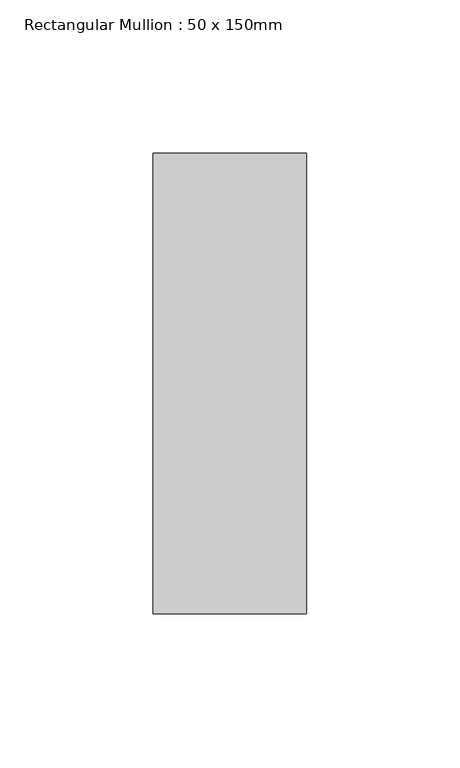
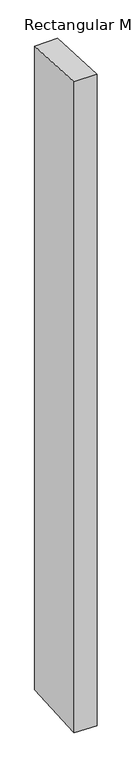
"""IFC4 building model written with IfcOpenShell, lengths in millimetres: member geometry, Rectangular Mullion : 50 x 150mm."""

from ifc_helpers import new_model, si_unit, origin, place, context, project, spatial, faceted_brep, source, transform, mapped, element, save


def rectangular_mullion_50_x_150mm_29780cc7(model_context):
    return source(origin(), model_context, "Body", "Brep", [
        faceted_brep([(-50.0, 75.0, -4.5405052), (0.0, 75.0, -4.0341547), (0.0, 75.0, -1495.3344757), (-50.0, 75.0, -1494.7488784), (-50.0, -75.0, 3.5278043), (-50.0, -75.0, -1504.0799269), (0.0, -75.0, 4.0341547), (0.0, -75.0, -1504.6655243)], [[[0, 1, 2, 3]], [[4, 0, 3, 5]], [[6, 4, 5, 7]], [[1, 6, 7, 2]], [[1, 0, 4, 6]], [[2, 7, 5, 3]]]),
    ])


if __name__ == "__main__":
    model = new_model("IFC4")
    model_context = context("Model", 3, world=origin())
    ifc_project = project(units=[si_unit("LENGTHUNIT", "METRE", prefix="MILLI")], contexts=[model_context])
    site = spatial("IfcSite", under=ifc_project)
    building = spatial("IfcBuilding", under=site)
    placement = place(None, origin())
    rectangular_mullion_50_x_150mm_shape = rectangular_mullion_50_x_150mm_29780cc7(model_context)
    element("IfcMember", 1, ObjectType="Rectangular Mullion : 50 x 150mm", at=placement, inside=building, context=model_context, shape_type="MappedRepresentation", body=[
        mapped(rectangular_mullion_50_x_150mm_shape, transform((0.0, 0.0, 0.0), x_axis=(1.0, 0.0, 0.0), y_axis=(0.0, 1.0, 0.0), z_axis=(0.0, 0.0, 1.0))),
    ])
    save(model, "model.ifc")
